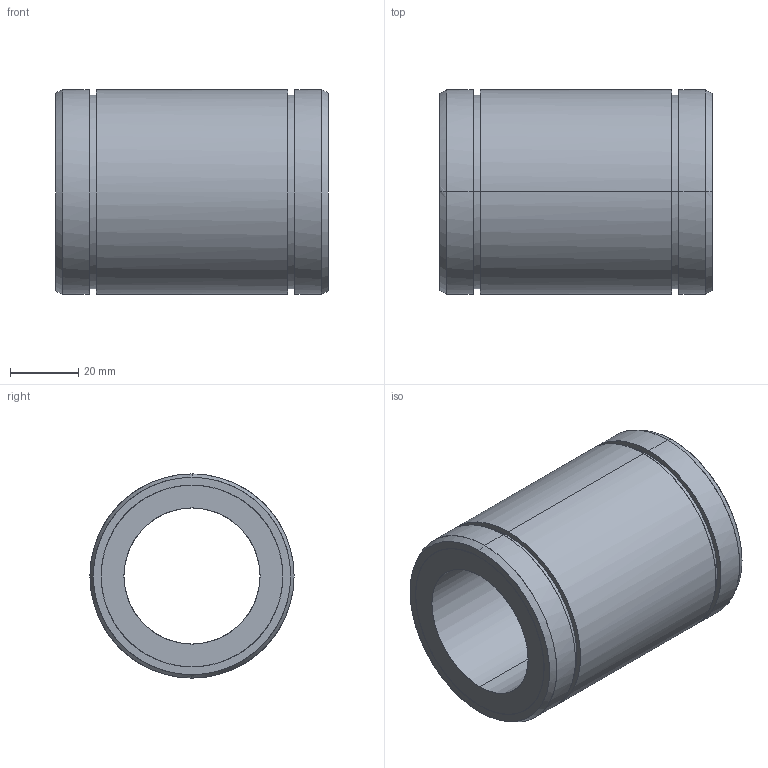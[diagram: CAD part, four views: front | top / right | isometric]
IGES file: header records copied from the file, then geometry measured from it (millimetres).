
Global section: file name: No Iges File Name specified; native system: AutoDesk Inventor R10; preprocessor: AutoDesk Inventor Iges Exporter R10; author: No Author specified; organization: No Organization specified; date: 20101208.095133; units: millimetre
Bounding box: 80 x 60 x 60 mm (x, y, z)
Surface area: 29058.2 mm2 (no closed solid volume)
Topology: 0 solids, 0 shells, 28 faces, 184 edges, 184 vertices
Faces by surface type: bspline 28
